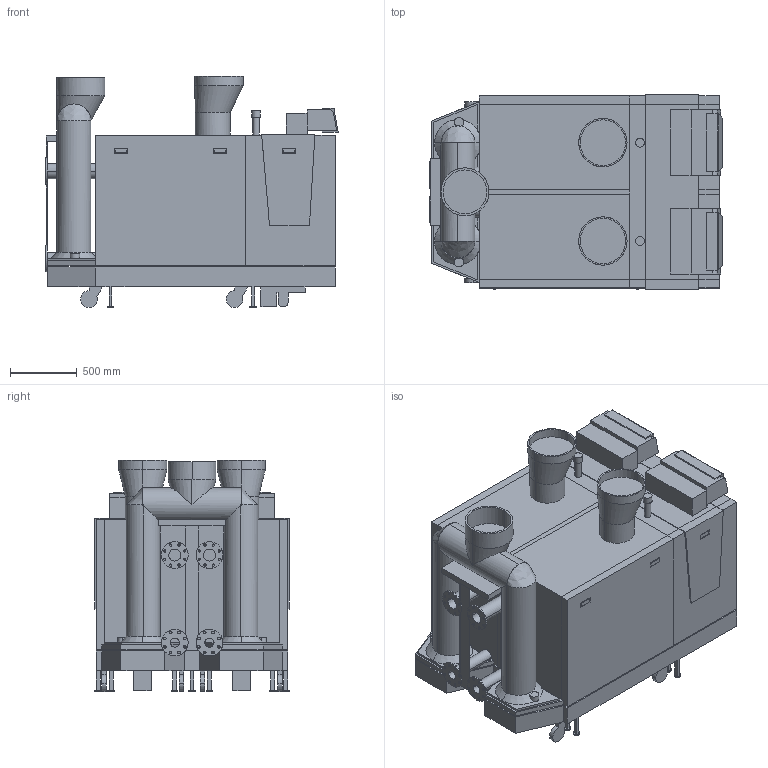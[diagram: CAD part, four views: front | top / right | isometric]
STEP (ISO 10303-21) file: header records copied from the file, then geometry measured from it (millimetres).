
FILE_DESCRIPTION (( 'STEP AP203' ), '1' );
FILE_NAME ('gas 610 ECO pro 8-10 leden.STEP', '2012-02-06T10:02:56', ( 'PICCA04' ), ( 'Microsoft' ), 'SwSTEP 2.0', 'SolidWorks 2011', '' );
FILE_SCHEMA (( 'CONFIG_CONTROL_DESIGN' ));
Length unit declared in the file: millimetre
Products named in the file (1): gas 610 ECO pro 8-10 leden
Bounding box: 2193.76 x 1460 x 1733.28 mm (x, y, z)
Volume: 3301664956.8 mm3; surface area: 23697720.5 mm2
Topology: 1 solids, 1 shells, 526 faces, 1413 edges, 942 vertices
Faces by surface type: plane 328, cylinder 186, bspline 8, cone 4
Entity records: 19521 total; most frequent: CARTESIAN_POINT 5891, ORIENTED_EDGE 2826, DIRECTION 2759, EDGE_CURVE 1413, LINE 961, VECTOR 961, VERTEX_POINT 942, AXIS2_PLACEMENT_3D 899
